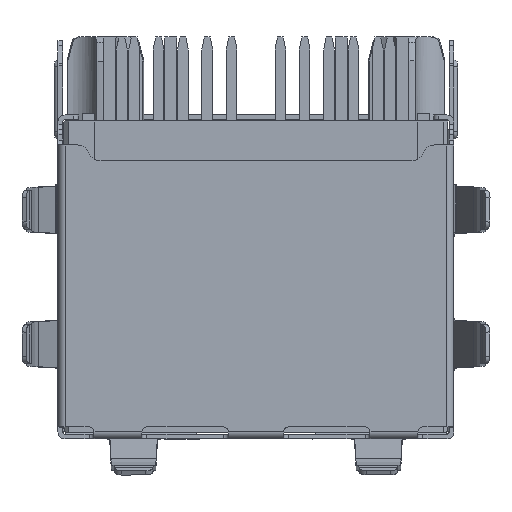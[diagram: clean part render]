
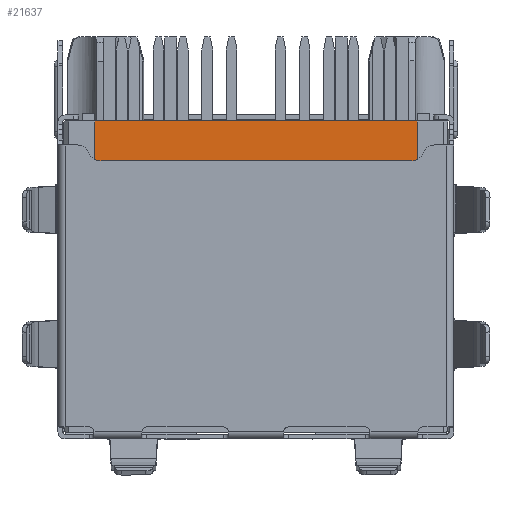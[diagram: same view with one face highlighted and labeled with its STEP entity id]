
A CAD part, front view. The second image highlights one B-rep face of the part: STEP entity #21637.
In plain terms, the highlighted planar face has unit normal (0, -1, 0).
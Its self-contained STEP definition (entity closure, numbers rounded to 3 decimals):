
#575 = VERTEX_POINT ( 'NONE', #52093 ) ;
#1374 = ORIENTED_EDGE ( 'NONE', *, *, #19899, .F. ) ;
#4160 = CARTESIAN_POINT ( 'NONE',  ( 14.725, 0., -4.3 ) ) ;
#5654 = VERTEX_POINT ( 'NONE', #6898 ) ;
#5911 = DIRECTION ( 'NONE',  ( 1., 0., 0. ) ) ;
#6898 = CARTESIAN_POINT ( 'NONE',  ( 14.725, 0., -3.5 ) ) ;
#6947 = CARTESIAN_POINT ( 'NONE',  ( 4.795, 0., -10.7 ) ) ;
#8075 = EDGE_CURVE ( 'NONE', #67109, #67447, #16380, .T. ) ;
#8905 = CARTESIAN_POINT ( 'NONE',  ( 14.725, 0., -10.7 ) ) ;
#9952 = DIRECTION ( 'NONE',  ( 0., 0., -1. ) ) ;
#10379 = EDGE_CURVE ( 'NONE', #30611, #24620, #67742, .T. ) ;
#10394 = DIRECTION ( 'NONE',  ( 0., 0., -1. ) ) ;
#11410 = CARTESIAN_POINT ( 'NONE',  ( 1.275, 0., -3.5 ) ) ;
#11461 = VERTEX_POINT ( 'NONE', #21651 ) ;
#11669 = EDGE_CURVE ( 'NONE', #38192, #575, #17601, .T. ) ;
#11693 = EDGE_LOOP ( 'NONE', ( #42808, #52494, #28277, #66451, #12235, #38307, #13526, #14972 ) ) ;
#12235 = ORIENTED_EDGE ( 'NONE', *, *, #61576, .F. ) ;
#12476 = DIRECTION ( 'NONE',  ( 1., 0., 0. ) ) ;
#13423 = LINE ( 'NONE', #15584, #56078 ) ;
#13526 = ORIENTED_EDGE ( 'NONE', *, *, #48859, .F. ) ;
#14972 = ORIENTED_EDGE ( 'NONE', *, *, #51023, .T. ) ;
#15445 = LINE ( 'NONE', #37789, #21586 ) ;
#15584 = CARTESIAN_POINT ( 'NONE',  ( 1.275, 0., -3.5 ) ) ;
#16294 = EDGE_CURVE ( 'NONE', #5654, #36410, #27513, .T. ) ;
#16380 = LINE ( 'NONE', #22600, #68173 ) ;
#17576 = CARTESIAN_POINT ( 'NONE',  ( 6., 0., -5.3 ) ) ;
#17601 = LINE ( 'NONE', #39947, #40415 ) ;
#18036 = VECTOR ( 'NONE', #45065, 1000. ) ;
#19899 = EDGE_CURVE ( 'NONE', #67447, #24620, #30273, .T. ) ;
#21359 = VECTOR ( 'NONE', #26077, 1000. ) ;
#21586 = VECTOR ( 'NONE', #9952, 1000. ) ;
#21637 = ADVANCED_FACE ( 'NONE', ( #32694, #64948 ), #65301, .T. ) ;
#21651 = CARTESIAN_POINT ( 'NONE',  ( 14.475, 0., -10.7 ) ) ;
#22600 = CARTESIAN_POINT ( 'NONE',  ( 1.6, 0., -5.71 ) ) ;
#23000 = EDGE_LOOP ( 'NONE', ( #1374, #25199, #42140, #48012 ) ) ;
#24620 = VERTEX_POINT ( 'NONE', #56773 ) ;
#25199 = ORIENTED_EDGE ( 'NONE', *, *, #8075, .F. ) ;
#26077 = DIRECTION ( 'NONE',  ( 0., 0., -1. ) ) ;
#26682 = DIRECTION ( 'NONE',  ( -1., 0., 0. ) ) ;
#26971 = VECTOR ( 'NONE', #10394, 1000. ) ;
#27513 = LINE ( 'NONE', #59753, #21359 ) ;
#27575 = VECTOR ( 'NONE', #53772, 1000. ) ;
#28277 = ORIENTED_EDGE ( 'NONE', *, *, #11669, .T. ) ;
#28480 = CARTESIAN_POINT ( 'NONE',  ( 1.6, 0., -10.7 ) ) ;
#28838 = CARTESIAN_POINT ( 'NONE',  ( 10., 0., -15.7 ) ) ;
#30273 = LINE ( 'NONE', #28838, #42636 ) ;
#30611 = VERTEX_POINT ( 'NONE', #70419 ) ;
#32194 = CARTESIAN_POINT ( 'NONE',  ( 14.725, 0., -10.7 ) ) ;
#32694 = FACE_BOUND ( 'NONE', #23000, .T. ) ;
#33146 = DIRECTION ( 'NONE',  ( 0., 0., -1. ) ) ;
#33738 = LINE ( 'NONE', #11410, #50056 ) ;
#34587 = VERTEX_POINT ( 'NONE', #67604 ) ;
#36410 = VERTEX_POINT ( 'NONE', #8905 ) ;
#36772 = DIRECTION ( 'NONE',  ( 0., -1., 0. ) ) ;
#37159 = CARTESIAN_POINT ( 'NONE',  ( 14.475, 0., -6.75 ) ) ;
#37688 = LINE ( 'NONE', #32194, #64765 ) ;
#37789 = CARTESIAN_POINT ( 'NONE',  ( 1.6, 0., -5.71 ) ) ;
#37845 = DIRECTION ( 'NONE',  ( 0., 0., -1. ) ) ;
#37893 = VERTEX_POINT ( 'NONE', #28480 ) ;
#38137 = VERTEX_POINT ( 'NONE', #71644 ) ;
#38152 = CARTESIAN_POINT ( 'NONE',  ( 10., 0., -5.71 ) ) ;
#38192 = VERTEX_POINT ( 'NONE', #38320 ) ;
#38307 = ORIENTED_EDGE ( 'NONE', *, *, #16294, .F. ) ;
#38320 = CARTESIAN_POINT ( 'NONE',  ( 1.6, 0., -15.71 ) ) ;
#39334 = AXIS2_PLACEMENT_3D ( 'NONE', #4160, #36772, #37845 ) ;
#39453 = DIRECTION ( 'NONE',  ( 1., 0., 0. ) ) ;
#39947 = CARTESIAN_POINT ( 'NONE',  ( 1.6, 0., -15.71 ) ) ;
#40415 = VECTOR ( 'NONE', #12476, 1000. ) ;
#41366 = CARTESIAN_POINT ( 'NONE',  ( 6., 0., -5.3 ) ) ;
#42140 = ORIENTED_EDGE ( 'NONE', *, *, #63575, .F. ) ;
#42636 = VECTOR ( 'NONE', #69473, 1000. ) ;
#42808 = ORIENTED_EDGE ( 'NONE', *, *, #45222, .F. ) ;
#45065 = DIRECTION ( 'NONE',  ( 1., 0., 0. ) ) ;
#45222 = EDGE_CURVE ( 'NONE', #37893, #38137, #68825, .T. ) ;
#48012 = ORIENTED_EDGE ( 'NONE', *, *, #10379, .T. ) ;
#48859 = EDGE_CURVE ( 'NONE', #34587, #5654, #33738, .T. ) ;
#50056 = VECTOR ( 'NONE', #5911, 1000. ) ;
#51023 = EDGE_CURVE ( 'NONE', #34587, #38137, #13423, .T. ) ;
#51264 = DIRECTION ( 'NONE',  ( -1., 0., 0. ) ) ;
#52093 = CARTESIAN_POINT ( 'NONE',  ( 14.475, 0., -15.71 ) ) ;
#52494 = ORIENTED_EDGE ( 'NONE', *, *, #62330, .T. ) ;
#53772 = DIRECTION ( 'NONE',  ( 0., 0., -1. ) ) ;
#54490 = VECTOR ( 'NONE', #51264, 1000. ) ;
#56078 = VECTOR ( 'NONE', #33146, 1000. ) ;
#56222 = EDGE_CURVE ( 'NONE', #11461, #575, #65703, .T. ) ;
#56773 = CARTESIAN_POINT ( 'NONE',  ( 10., 0., -5.3 ) ) ;
#58913 = LINE ( 'NONE', #41366, #27575 ) ;
#59753 = CARTESIAN_POINT ( 'NONE',  ( 14.725, 0., -3.5 ) ) ;
#61576 = EDGE_CURVE ( 'NONE', #36410, #11461, #37688, .T. ) ;
#62330 = EDGE_CURVE ( 'NONE', #37893, #38192, #15445, .T. ) ;
#63575 = EDGE_CURVE ( 'NONE', #30611, #67109, #58913, .T. ) ;
#64765 = VECTOR ( 'NONE', #26682, 1000. ) ;
#64948 = FACE_OUTER_BOUND ( 'NONE', #11693, .T. ) ;
#65301 = PLANE ( 'NONE',  #39334 ) ;
#65703 = LINE ( 'NONE', #37159, #26971 ) ;
#66451 = ORIENTED_EDGE ( 'NONE', *, *, #56222, .F. ) ;
#67109 = VERTEX_POINT ( 'NONE', #72268 ) ;
#67447 = VERTEX_POINT ( 'NONE', #38152 ) ;
#67604 = CARTESIAN_POINT ( 'NONE',  ( 1.275, 0., -3.5 ) ) ;
#67742 = LINE ( 'NONE', #17576, #18036 ) ;
#68173 = VECTOR ( 'NONE', #39453, 1000. ) ;
#68825 = LINE ( 'NONE', #6947, #54490 ) ;
#69473 = DIRECTION ( 'NONE',  ( 0., 0., 1. ) ) ;
#70419 = CARTESIAN_POINT ( 'NONE',  ( 6., 0., -5.3 ) ) ;
#71644 = CARTESIAN_POINT ( 'NONE',  ( 1.275, 0., -10.7 ) ) ;
#72268 = CARTESIAN_POINT ( 'NONE',  ( 6., 0., -5.71 ) ) ;
